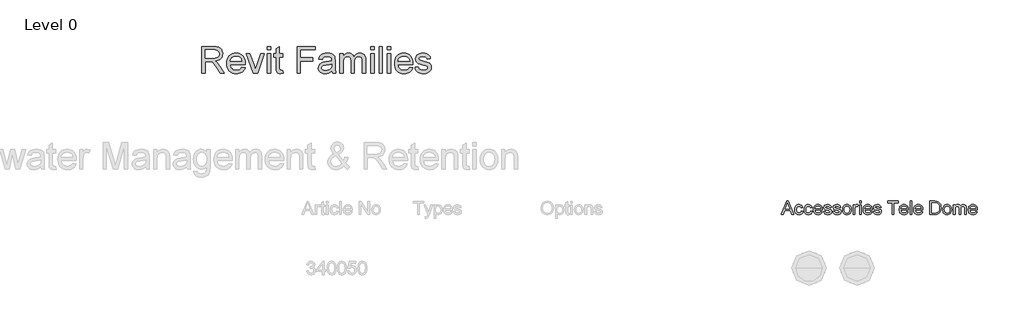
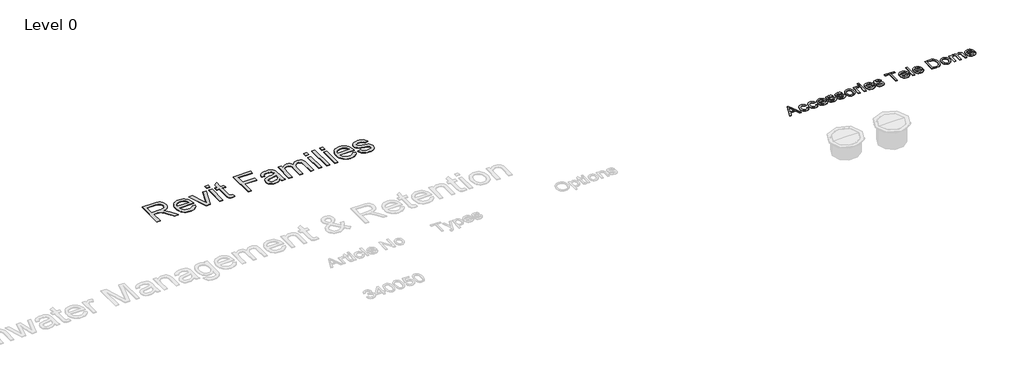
# One storey, part 10 of 10: 2 proxies.
"""IFC4 building model written with IfcOpenShell, lengths in millimetres."""

from ifc_helpers import new_model, si_unit, origin, origin_with_axes, place, context, project, spatial, polyline, outline, extrude, element, save

model = new_model("IFC4")

# Units and contexts
model_context = context("Model", 3, world=origin())
ifc_project = project(units=[si_unit("LENGTHUNIT", "METRE", prefix="MILLI")], contexts=[model_context])

# Site, building, storey
site = spatial("IfcSite", under=ifc_project)
building = spatial("IfcBuilding", under=site)
storey = spatial("IfcBuildingStorey", under=building, Name="Level 0", Elevation=0.0)

# Proxies
placement = place(None, origin())
element("IfcBuildingElementProxy", 1, Name="300mm Arial", ObjectType="300mm Arial", at=placement, inside=storey, context=model_context, shape_type="SweptSolid", body=[
    extrude(outline(polyline([(4427.6915108, 11631.8762937), (4547.9889232, 11933.2452242), (4580.0682332, 11933.2452242), (4700.3656456, 11631.8762937), (4660.5608138, 11631.8762937), (4626.0534826, 11726.0540845), (4501.9300975, 11726.0540845), (4467.4963427, 11631.8762937), (4427.6915108, 11631.8762937)]), holes=[polyline([(4515.7624605, 11763.7252008), (4612.294696, 11763.7252008), (4585.1450048, 11837.8166346), (4564.0285782, 11895.5741079), (4545.2665965, 11844.2913577), (4515.7624605, 11763.7252008)])]), origin_with_axes(), (0.0, 0.0, 1.0), 10.0),
    extrude(outline(polyline([(4877.1697325, 11711.9274159), (4914.8408488, 11707.2185263), (4904.3378179, 11673.7136736), (4884.6009488, 11648.3941953), (4857.4880458, 11632.474102), (4824.8569128, 11627.1674042), (4803.72899, 11629.0183105), (4784.7853665, 11634.5710293), (4768.0260424, 11643.8255608), (4753.4510176, 11656.7819048), (4741.6535018, 11673.1963396), (4733.2267049, 11692.8251433), (4728.1706267, 11715.6683159), (4726.4852673, 11741.7258575), (4729.3639439, 11775.2491043), (4737.9999738, 11804.3025848), (4752.5313126, 11827.7642591), (4773.0959161, 11844.5120869), (4797.6980245, 11854.5552654), (4824.341878, 11857.9029915), (4856.1728677, 11853.3044666), (4881.6211047, 11839.5088918), (4899.8772487, 11817.2520311), (4910.1319593, 11787.2696485), (4872.460843, 11782.5607589), (4865.6274349, 11798.9958871), (4854.9864482, 11810.777308), (4841.1264941, 11817.8682334), (4824.6361836, 11820.2318752), (4800.2915926, 11815.578168), (4780.9685908, 11801.6170463), (4768.3594354, 11777.594352), (4764.1563836, 11742.7559271), (4768.2674649, 11707.4484526), (4780.6007088, 11683.3429848), (4799.5742227, 11669.4646366), (4823.606114, 11664.8385205), (4843.1130568, 11667.7263941), (4859.1067266, 11676.3900151), (4870.7409947, 11691.0501126), (4877.1697325, 11711.9274159)])), origin_with_axes(), (0.0, 0.0, 1.0), 10.0),
    extrude(outline(polyline([(5089.0697618, 11711.9274159), (5126.7408781, 11707.2185263), (5116.2378471, 11673.7136736), (5096.5009781, 11648.3941953), (5069.388075, 11632.474102), (5036.756942, 11627.1674042), (5015.6290192, 11629.0183105), (4996.6853957, 11634.5710293), (4979.9260716, 11643.8255608), (4965.3510468, 11656.7819048), (4953.553531, 11673.1963396), (4945.1267341, 11692.8251433), (4940.0706559, 11715.6683159), (4938.3852965, 11741.7258575), (4941.2639731, 11775.2491043), (4949.900003, 11804.3025848), (4964.4313418, 11827.7642591), (4984.9959453, 11844.5120869), (5009.5980537, 11854.5552654), (5036.2419072, 11857.9029915), (5068.0728969, 11853.3044666), (5093.5211339, 11839.5088918), (5111.7772779, 11817.2520311), (5122.0319885, 11787.2696485), (5084.3608722, 11782.5607589), (5077.5274642, 11798.9958871), (5066.8864774, 11810.777308), (5053.0265233, 11817.8682334), (5036.5362128, 11820.2318752), (5012.1916218, 11815.578168), (4992.86862, 11801.6170463), (4980.2594646, 11777.594352), (4976.0564128, 11742.7559271), (4980.1674941, 11707.4484526), (4992.500738, 11683.3429848), (5011.4742519, 11669.4646366), (5035.5061433, 11664.8385205), (5055.0130861, 11667.7263941), (5071.0067558, 11676.3900151), (5082.6410239, 11691.0501126), (5089.0697618, 11711.9274159)])), origin_with_axes(), (0.0, 0.0, 1.0), 10.0),
    extrude(outline(polyline([(5314.6550012, 11697.8007472), (5351.5903535, 11693.0918577), (5338.2822223, 11665.2615848), (5317.0462342, 11644.4578579), (5288.3606356, 11631.4900176), (5252.7036732, 11627.1674042), (5229.3293709, 11629.032106), (5208.5026515, 11634.6262116), (5190.2235149, 11643.9497209), (5174.491961, 11657.002634), (5161.8414189, 11673.4216673), (5152.8053174, 11692.8435374), (5147.3836565, 11715.2682442), (5145.5764362, 11740.6957879), (5147.4020506, 11766.985555), (5152.8788938, 11790.1575221), (5162.0069658, 11810.2116894), (5174.7862666, 11827.1480568), (5190.4764337, 11840.6033407), (5208.3371046, 11850.2142578), (5228.3682792, 11855.9808081), (5250.5699576, 11857.9029915), (5272.0565654, 11855.9854066), (5291.4876325, 11850.2326519), (5308.863159, 11840.6447274), (5324.1831449, 11827.2216331), (5336.6888334, 11810.322054), (5345.6214681, 11790.3046749), (5350.981049, 11767.169496), (5352.7675759, 11740.9165171), (5352.5468467, 11730.762974), (5183.2475525, 11730.762974), (5189.7682609, 11702.5648191), (5204.915802, 11681.8346687), (5226.7771896, 11669.0875575), (5253.4394372, 11664.8385205), (5273.4890059, 11666.8066892), (5290.3747895, 11672.7111952), (5304.0967879, 11682.9199205), (5314.6550012, 11697.8007472)]), holes=[polyline([(5183.2475525, 11768.4340903), (5315.0964596, 11768.4340903), (5310.001294, 11788.3365063), (5300.0132978, 11802.5735395), (5278.0507427, 11815.8172913), (5250.4228048, 11820.2318752), (5225.0297501, 11816.7094051), (5204.0328852, 11806.1419948), (5189.4371671, 11789.6700785), (5183.2475525, 11768.4340903)])]), origin_with_axes(), (0.0, 0.0, 1.0), 10.0),
    extrude(outline(polyline([(5376.3120236, 11697.8007472), (5413.9831399, 11702.5096368), (5419.9244341, 11686.3964054), (5431.4207465, 11674.5506052), (5448.5456533, 11667.2665416), (5471.3727311, 11664.8385205), (5493.9238974, 11667.0642065), (5509.7796114, 11673.7412648), (5519.1606023, 11683.4165612), (5522.2875993, 11694.6369621), (5519.1422082, 11704.2386822), (5509.706035, 11711.5595339), (5470.9312727, 11722.3016881), (5414.2038691, 11740.7325761), (5399.8472742, 11749.9940053), (5389.4454108, 11762.2536728), (5383.1270375, 11776.7298293), (5381.0209131, 11792.6407256), (5382.7131703, 11807.2364438), (5387.7899418, 11820.7101218), (5395.7913752, 11832.5283309), (5406.257618, 11842.1576422), (5430.2067359, 11853.3044666), (5462.6171397, 11857.9029915), (5487.1364746, 11856.0543845), (5508.4552363, 11850.5085634), (5525.5985372, 11841.8081543), (5537.5914903, 11830.4957829), (5545.5377414, 11815.7345178), (5550.5409365, 11796.6874275), (5512.8698202, 11791.978538), (5508.1149454, 11803.8335353), (5498.7063634, 11812.7638707), (5484.5521036, 11818.3648741), (5465.5601956, 11820.2318752), (5443.9287343, 11818.4476476), (5429.5077601, 11813.0949645), (5421.3959621, 11805.3694426), (5418.6920294, 11796.4666984), (5423.1801898, 11785.5038149), (5437.233282, 11777.1896818), (5469.680474, 11769.1698543), (5524.9731378, 11751.4379421), (5539.578053, 11742.9582622), (5550.6513011, 11731.3515852), (5557.631862, 11716.5811231), (5559.9587156, 11698.6100876), (5557.2271918, 11680.0320469), (5549.0326203, 11662.5576521), (5535.6877009, 11647.5572638), (5517.5051333, 11636.4012423), (5495.5425782, 11629.4758637), (5470.8576963, 11627.1674042), (5432.8738803, 11631.6187763), (5405.153972, 11644.9728927), (5386.6495077, 11667.0826006), (5376.3120236, 11697.8007472)])), origin_with_axes(), (0.0, 0.0, 1.0), 10.0),
    extrude(outline(polyline([(5588.2120528, 11697.8007472), (5625.8831691, 11702.5096368), (5631.8244633, 11686.3964054), (5643.3207757, 11674.5506052), (5660.4456826, 11667.2665416), (5683.2727604, 11664.8385205), (5705.8239267, 11667.0642065), (5721.6796407, 11673.7412648), (5731.0606315, 11683.4165612), (5734.1876285, 11694.6369621), (5731.0422374, 11704.2386822), (5721.6060643, 11711.5595339), (5682.831302, 11722.3016881), (5626.1038983, 11740.7325761), (5611.7473035, 11749.9940053), (5601.34544, 11762.2536728), (5595.0270668, 11776.7298293), (5592.9209423, 11792.6407256), (5594.6131995, 11807.2364438), (5599.6899711, 11820.7101218), (5607.6914045, 11832.5283309), (5618.1576472, 11842.1576422), (5642.1067651, 11853.3044666), (5674.5171689, 11857.9029915), (5699.0365039, 11856.0543845), (5720.3552655, 11850.5085634), (5737.4985665, 11841.8081543), (5749.4915195, 11830.4957829), (5757.4377706, 11815.7345178), (5762.4409657, 11796.6874275), (5724.7698494, 11791.978538), (5720.0149746, 11803.8335353), (5710.6063926, 11812.7638707), (5696.4521328, 11818.3648741), (5677.4602248, 11820.2318752), (5655.8287635, 11818.4476476), (5641.4077893, 11813.0949645), (5633.2959913, 11805.3694426), (5630.5920587, 11796.4666984), (5635.080219, 11785.5038149), (5649.1333112, 11777.1896818), (5681.5805032, 11769.1698543), (5736.8731671, 11751.4379421), (5751.4780823, 11742.9582622), (5762.5513303, 11731.3515852), (5769.5318912, 11716.5811231), (5771.8587448, 11698.6100876), (5769.127221, 11680.0320469), (5760.9326495, 11662.5576521), (5747.5877302, 11647.5572638), (5729.4051626, 11636.4012423), (5707.4426074, 11629.4758637), (5682.7577256, 11627.1674042), (5644.7739096, 11631.6187763), (5617.0540012, 11644.9728927), (5598.5495369, 11667.0826006), (5588.2120528, 11697.8007472)])), origin_with_axes(), (0.0, 0.0, 1.0), 10.0),
    extrude(outline(polyline([(5804.8209716, 11742.5351979), (5806.8581181, 11771.1978038), (5812.9695578, 11795.8964813), (5823.1552905, 11816.6312302), (5837.4153163, 11833.4020507), (5851.7719112, 11844.1212123), (5867.6184281, 11851.7777563), (5884.9548672, 11856.3716827), (5903.7812283, 11857.9029915), (5924.5642617, 11856.0382897), (5943.3561339, 11850.4441841), (5960.1568448, 11841.1206748), (5974.9663943, 11828.0677617), (5987.0536171, 11811.7269034), (5995.6873477, 11792.5395581), (6000.8675861, 11770.5057258), (6002.5943322, 11745.6254066), (5999.5409116, 11707.5680142), (5990.3806499, 11678.5973071), (5975.3802616, 11656.9014664), (5954.806461, 11640.6686734), (5930.3698995, 11630.5427215), (5903.7812283, 11627.1674042), (5882.6946922, 11629.0252082), (5863.728076, 11634.5986205), (5846.8813799, 11643.8876409), (5832.1546038, 11656.8922694), (5820.1961397, 11673.3917769), (5811.6543796, 11693.1654341), (5806.5293236, 11716.2132411), (5804.8209716, 11742.5351979)]), holes=[polyline([(5842.4920879, 11742.6087743), (5846.8514895, 11708.5153104), (5859.9296944, 11684.2259016), (5879.6113812, 11669.6853658), (5903.7812283, 11664.8385205), (5927.8407108, 11669.7129569), (5947.4856093, 11684.3362662), (5960.5638142, 11708.9475717), (5964.9232159, 11743.7859966), (5960.5362231, 11776.8861792), (5947.3752447, 11800.8444941), (5927.702755, 11815.38503), (5903.7812283, 11820.2318752), (5879.6113812, 11815.4034241), (5859.9296944, 11800.9180705), (5846.8514895, 11776.6838441), (5842.4920879, 11742.6087743)])]), origin_with_axes(), (0.0, 0.0, 1.0), 10.0),
    extrude(outline(polyline([(6044.974338, 11631.8762937), (6044.974338, 11853.194102), (6077.9365648, 11853.194102), (6077.9365648, 11820.4526044), (6090.1134588, 11839.4353154), (6101.3338597, 11850.618928), (6112.5910487, 11856.0819757), (6124.8783074, 11857.9029915), (6143.6402891, 11854.9967238), (6162.6965765, 11846.2779205), (6150.1150122, 11812.5063533), (6136.8712604, 11818.3004948), (6123.6275086, 11820.2318752), (6112.3795166, 11818.3740712), (6102.3271411, 11812.8006589), (6094.206146, 11803.9347029), (6088.7522954, 11792.1992672), (6084.1721646, 11771.1564171), (6082.6454543, 11748.2005806), (6082.6454543, 11631.8762937), (6044.974338, 11631.8762937)])), origin_with_axes(), (0.0, 0.0, 1.0), 10.0),
    extrude(outline(polyline([(6186.2410242, 11895.5741079), (6186.2410242, 11933.2452242), (6223.9121405, 11933.2452242), (6223.9121405, 11895.5741079), (6186.2410242, 11895.5741079)])), origin_with_axes(), (0.0, 0.0, 1.0), 10.0),
    extrude(outline(polyline([(6186.2410242, 11631.8762937), (6186.2410242, 11853.194102), (6223.9121405, 11853.194102), (6223.9121405, 11631.8762937), (6186.2410242, 11631.8762937)])), origin_with_axes(), (0.0, 0.0, 1.0), 10.0),
    extrude(outline(polyline([(6435.3707113, 11697.8007472), (6472.3060636, 11693.0918577), (6458.9979324, 11665.2615848), (6437.7619443, 11644.4578579), (6409.0763457, 11631.4900176), (6373.4193833, 11627.1674042), (6350.045081, 11629.032106), (6329.2183616, 11634.6262116), (6310.939225, 11643.9497209), (6295.2076711, 11657.002634), (6282.557129, 11673.4216673), (6273.5210275, 11692.8435374), (6268.0993666, 11715.2682442), (6266.2921463, 11740.6957879), (6268.1177607, 11766.985555), (6273.5946039, 11790.1575221), (6282.7226759, 11810.2116894), (6295.5019767, 11827.1480568), (6311.1921438, 11840.6033407), (6329.0528147, 11850.2142578), (6349.0839893, 11855.9808081), (6371.2856677, 11857.9029915), (6392.7722755, 11855.9854066), (6412.2033427, 11850.2326519), (6429.5788691, 11840.6447274), (6444.898855, 11827.2216331), (6457.4045436, 11810.322054), (6466.3371782, 11790.3046749), (6471.6967591, 11767.169496), (6473.483286, 11740.9165171), (6473.2625568, 11730.762974), (6303.9632626, 11730.762974), (6310.483971, 11702.5648191), (6325.6315121, 11681.8346687), (6347.4928997, 11669.0875575), (6374.1551473, 11664.8385205), (6394.204716, 11666.8066892), (6411.0904996, 11672.7111952), (6424.812498, 11682.9199205), (6435.3707113, 11697.8007472)]), holes=[polyline([(6303.9632626, 11768.4340903), (6435.8121697, 11768.4340903), (6430.7170041, 11788.3365063), (6420.7290079, 11802.5735395), (6398.7664528, 11815.8172913), (6371.1385149, 11820.2318752), (6345.7454602, 11816.7094051), (6324.7485954, 11806.1419948), (6310.1528772, 11789.6700785), (6303.9632626, 11768.4340903)])]), origin_with_axes(), (0.0, 0.0, 1.0), 10.0),
    extrude(outline(polyline([(6497.0277337, 11697.8007472), (6534.69885, 11702.5096368), (6540.6401442, 11686.3964054), (6552.1364566, 11674.5506052), (6569.2613634, 11667.2665416), (6592.0884412, 11664.8385205), (6614.6396076, 11667.0642065), (6630.4953215, 11673.7412648), (6639.8763124, 11683.4165612), (6643.0033094, 11694.6369621), (6639.8579183, 11704.2386822), (6630.4217451, 11711.5595339), (6591.6469829, 11722.3016881), (6534.9195792, 11740.7325761), (6520.5629843, 11749.9940053), (6510.1611209, 11762.2536728), (6503.8427477, 11776.7298293), (6501.7366232, 11792.6407256), (6503.4288804, 11807.2364438), (6508.5056519, 11820.7101218), (6516.5070853, 11832.5283309), (6526.9733281, 11842.1576422), (6550.922446, 11853.3044666), (6583.3328498, 11857.9029915), (6607.8521847, 11856.0543845), (6629.1709464, 11850.5085634), (6646.3142473, 11841.8081543), (6658.3072004, 11830.4957829), (6666.2534515, 11815.7345178), (6671.2566466, 11796.6874275), (6633.5855303, 11791.978538), (6628.8306555, 11803.8335353), (6619.4220735, 11812.7638707), (6605.2678137, 11818.3648741), (6586.2759057, 11820.2318752), (6564.6444444, 11818.4476476), (6550.2234702, 11813.0949645), (6542.1116722, 11805.3694426), (6539.4077395, 11796.4666984), (6543.8958999, 11785.5038149), (6557.9489921, 11777.1896818), (6590.3961841, 11769.1698543), (6645.6888479, 11751.4379421), (6660.2937632, 11742.9582622), (6671.3670112, 11731.3515852), (6678.3475721, 11716.5811231), (6680.6744257, 11698.6100876), (6677.9429019, 11680.0320469), (6669.7483304, 11662.5576521), (6656.4034111, 11647.5572638), (6638.2208434, 11636.4012423), (6616.2582883, 11629.4758637), (6591.5734065, 11627.1674042), (6553.5895905, 11631.6187763), (6525.8696821, 11644.9728927), (6507.3652178, 11667.0826006), (6497.0277337, 11697.8007472)])), origin_with_axes(), (0.0, 0.0, 1.0), 10.0),
    extrude(outline(polyline([(6920.8277921, 11631.8762937), (6920.8277921, 11895.5741079), (6821.9411118, 11895.5741079), (6821.9411118, 11933.2452242), (7057.3855887, 11933.2452242), (7057.3855887, 11895.5741079), (6958.4989084, 11895.5741079), (6958.4989084, 11631.8762937), (6920.8277921, 11631.8762937)])), origin_with_axes(), (0.0, 0.0, 1.0), 10.0),
    extrude(outline(polyline([(7250.0086014, 11697.8007472), (7286.9439537, 11693.0918577), (7273.6358226, 11665.2615848), (7252.3998344, 11644.4578579), (7223.7142358, 11631.4900176), (7188.0572734, 11627.1674042), (7164.6829712, 11629.032106), (7143.8562517, 11634.6262116), (7125.5771151, 11643.9497209), (7109.8455613, 11657.002634), (7097.1950192, 11673.4216673), (7088.1589176, 11692.8435374), (7082.7372567, 11715.2682442), (7080.9300364, 11740.6957879), (7082.7556508, 11766.985555), (7088.232494, 11790.1575221), (7097.360566, 11810.2116894), (7110.1398669, 11827.1480568), (7125.830034, 11840.6033407), (7143.6907048, 11850.2142578), (7163.7218795, 11855.9808081), (7185.9235579, 11857.9029915), (7207.4101656, 11855.9854066), (7226.8412328, 11850.2326519), (7244.2167593, 11840.6447274), (7259.5367451, 11827.2216331), (7272.0424337, 11810.322054), (7280.9750684, 11790.3046749), (7286.3346492, 11767.169496), (7288.1211761, 11740.9165171), (7287.9004469, 11730.762974), (7118.6011527, 11730.762974), (7125.1218611, 11702.5648191), (7140.2694023, 11681.8346687), (7162.1307898, 11669.0875575), (7188.7930374, 11664.8385205), (7208.8426062, 11666.8066892), (7225.7283897, 11672.7111952), (7239.4503882, 11682.9199205), (7250.0086014, 11697.8007472)]), holes=[polyline([(7118.6011527, 11768.4340903), (7250.4500598, 11768.4340903), (7245.3548942, 11788.3365063), (7235.366898, 11802.5735395), (7213.4043429, 11815.8172913), (7185.7764051, 11820.2318752), (7160.3833503, 11816.7094051), (7139.3864855, 11806.1419948), (7124.7907673, 11789.6700785), (7118.6011527, 11768.4340903)])]), origin_with_axes(), (0.0, 0.0, 1.0), 10.0),
    extrude(outline(polyline([(7325.7922924, 11631.8762937), (7325.7922924, 11933.2452242), (7363.4634087, 11933.2452242), (7363.4634087, 11631.8762937), (7325.7922924, 11631.8762937)])), origin_with_axes(), (0.0, 0.0, 1.0), 10.0),
    extrude(outline(polyline([(7574.9219796, 11697.8007472), (7611.8573319, 11693.0918577), (7598.5492007, 11665.2615848), (7577.3132125, 11644.4578579), (7548.627614, 11631.4900176), (7512.9706516, 11627.1674042), (7489.5963493, 11629.032106), (7468.7696299, 11634.6262116), (7450.4904932, 11643.9497209), (7434.7589394, 11657.002634), (7422.1083973, 11673.4216673), (7413.0722958, 11692.8435374), (7407.6506349, 11715.2682442), (7405.8434146, 11740.6957879), (7407.669029, 11766.985555), (7413.1458722, 11790.1575221), (7422.2739442, 11810.2116894), (7435.053245, 11827.1480568), (7450.7434121, 11840.6033407), (7468.604083, 11850.2142578), (7488.6352576, 11855.9808081), (7510.836936, 11857.9029915), (7532.3235438, 11855.9854066), (7551.7546109, 11850.2326519), (7569.1301374, 11840.6447274), (7584.4501232, 11827.2216331), (7596.9558118, 11810.322054), (7605.8884465, 11790.3046749), (7611.2480273, 11767.169496), (7613.0345543, 11740.9165171), (7612.8138251, 11730.762974), (7443.5145309, 11730.762974), (7450.0352392, 11702.5648191), (7465.1827804, 11681.8346687), (7487.044168, 11669.0875575), (7513.7064156, 11664.8385205), (7533.7559843, 11666.8066892), (7550.6417679, 11672.7111952), (7564.3637663, 11682.9199205), (7574.9219796, 11697.8007472)]), holes=[polyline([(7443.5145309, 11768.4340903), (7575.363438, 11768.4340903), (7570.2682723, 11788.3365063), (7560.2802762, 11802.5735395), (7538.317721, 11815.8172913), (7510.6897832, 11820.2318752), (7485.2967285, 11816.7094051), (7464.2998636, 11806.1419948), (7449.7041455, 11789.6700785), (7443.5145309, 11768.4340903)])]), origin_with_axes(), (0.0, 0.0, 1.0), 10.0),
    extrude(outline(polyline([(7773.1367986, 11631.8762937), (7773.1367986, 11933.2452242), (7877.1002504, 11933.2452242), (7930.8845981, 11928.9042166), (7954.9072924, 11920.5349012), (7975.1775903, 11907.3463317), (7996.0181053, 11884.3904952), (8010.8621438, 11855.8428524), (8019.746494, 11822.2552262), (8022.7079441, 11784.1794397), (8020.7029872, 11751.8334153), (8014.6881166, 11723.3685459), (8005.5278549, 11699.1343195), (7994.0867249, 11679.4802239), (7980.9165494, 11663.9648007), (7966.5691516, 11652.1465916), (7950.0972353, 11643.3818031), (7930.5535043, 11637.0266416), (7882.1034455, 11631.8762937), (7773.1367986, 11631.8762937)]), holes=[polyline([(7810.8079149, 11669.54741), (7877.4681324, 11669.54741), (7905.0408879, 11670.9085734), (7925.9549794, 11674.9920635), (7941.737117, 11681.5587572), (7953.914011, 11690.3695309), (7967.001413, 11706.6759004), (7976.8330593, 11727.7831299), (7982.9858857, 11753.7831899), (7985.0368278, 11784.7680509), (7981.017717, 11825.8236816), (7968.9603846, 11856.137158), (7951.145699, 11876.9592789), (7929.8545285, 11889.5408431), (7908.186279, 11894.0657917), (7876.4380628, 11895.5741079), (7810.8079149, 11895.5741079), (7810.8079149, 11669.54741)])]), origin_with_axes(), (0.0, 0.0, 1.0), 10.0),
    extrude(outline(polyline([(8060.3790604, 11742.5351979), (8062.4162069, 11771.1978038), (8068.5276466, 11795.8964813), (8078.7133793, 11816.6312302), (8092.9734052, 11833.4020507), (8107.33, 11844.1212123), (8123.176517, 11851.7777563), (8140.512956, 11856.3716827), (8159.3393171, 11857.9029915), (8180.1223506, 11856.0382897), (8198.9142227, 11850.4441841), (8215.7149336, 11841.1206748), (8230.5244832, 11828.0677617), (8242.611706, 11811.7269034), (8251.2454365, 11792.5395581), (8256.4256749, 11770.5057258), (8258.152421, 11745.6254066), (8255.0990004, 11707.5680142), (8245.9387388, 11678.5973071), (8230.9383504, 11656.9014664), (8210.3645498, 11640.6686734), (8185.9279883, 11630.5427215), (8159.3393171, 11627.1674042), (8138.252781, 11629.0252082), (8119.2861649, 11634.5986205), (8102.4394688, 11643.8876409), (8087.7126926, 11656.8922694), (8075.7542285, 11673.3917769), (8067.2124685, 11693.1654341), (8062.0874124, 11716.2132411), (8060.3790604, 11742.5351979)]), holes=[polyline([(8098.0501767, 11742.6087743), (8102.4095783, 11708.5153104), (8115.4877833, 11684.2259016), (8135.16947, 11669.6853658), (8159.3393171, 11664.8385205), (8183.3987996, 11669.7129569), (8203.0436981, 11684.3362662), (8216.1219031, 11708.9475717), (8220.4813047, 11743.7859966), (8216.0943119, 11776.8861792), (8202.9333335, 11800.8444941), (8183.2608438, 11815.38503), (8159.3393171, 11820.2318752), (8135.16947, 11815.4034241), (8115.4877833, 11800.9180705), (8102.4095783, 11776.6838441), (8098.0501767, 11742.6087743)])]), origin_with_axes(), (0.0, 0.0, 1.0), 10.0),
    extrude(outline(polyline([(8300.5324268, 11631.8762937), (8300.5324268, 11853.194102), (8338.2035432, 11853.194102), (8338.2035432, 11816.7737845), (8349.5343086, 11833.5032182), (8364.1024356, 11846.6090143), (8381.4112835, 11855.0794972), (8400.9642115, 11857.9029915), (8421.9150912, 11855.0243149), (8438.7089042, 11846.3882851), (8451.2536803, 11832.5651191), (8459.4574488, 11814.1250341), (8473.1886442, 11833.2778905), (8488.8512202, 11846.9585022), (8506.4451766, 11855.1668692), (8525.9705135, 11857.9029915), (8554.2882301, 11853.3504519), (8575.2299126, 11839.6928328), (8588.1701618, 11816.5622523), (8592.4835782, 11783.5908285), (8592.4835782, 11631.8762937), (8554.8124619, 11631.8762937), (8554.8124619, 11767.4040207), (8551.317583, 11798.8579313), (8546.4063583, 11807.5307494), (8538.6624423, 11814.3457633), (8528.7020373, 11818.7603473), (8517.1413456, 11820.2318752), (8496.7330919, 11816.4610848), (8480.0956287, 11805.1487134), (8469.0315777, 11785.522209), (8465.3435607, 11756.8090193), (8465.3435607, 11631.8762937), (8427.6724444, 11631.8762937), (8427.6724444, 11771.5978755), (8425.4927436, 11792.898243), (8418.9536411, 11808.0917694), (8407.4481317, 11817.1968488), (8390.3692101, 11820.2318752), (8375.8562654, 11818.2085243), (8362.4837548, 11812.1384713), (8351.447295, 11802.1688693), (8343.9425023, 11788.4468709), (8339.6382829, 11769.4089776), (8338.2035432, 11743.491691), (8338.2035432, 11631.8762937), (8300.5324268, 11631.8762937)])), origin_with_axes(), (0.0, 0.0, 1.0), 10.0),
    extrude(outline(polyline([(8803.942149, 11697.8007472), (8840.8775014, 11693.0918577), (8827.5693702, 11665.2615848), (8806.333382, 11644.4578579), (8777.6477834, 11631.4900176), (8741.9908211, 11627.1674042), (8718.6165188, 11629.032106), (8697.7897993, 11634.6262116), (8679.5106627, 11643.9497209), (8663.7791089, 11657.002634), (8651.1285668, 11673.4216673), (8642.0924653, 11692.8435374), (8636.6708044, 11715.2682442), (8634.8635841, 11740.6957879), (8636.6891985, 11766.985555), (8642.1660417, 11790.1575221), (8651.2941137, 11810.2116894), (8664.0734145, 11827.1480568), (8679.7635816, 11840.6033407), (8697.6242524, 11850.2142578), (8717.6554271, 11855.9808081), (8739.8571055, 11857.9029915), (8761.3437133, 11855.9854066), (8780.7747804, 11850.2326519), (8798.1503069, 11840.6447274), (8813.4702927, 11827.2216331), (8825.9759813, 11810.322054), (8834.908616, 11790.3046749), (8840.2681968, 11767.169496), (8842.0547237, 11740.9165171), (8841.8339946, 11730.762974), (8672.5347004, 11730.762974), (8679.0554087, 11702.5648191), (8694.2029499, 11681.8346687), (8716.0643375, 11669.0875575), (8742.7265851, 11664.8385205), (8762.7761538, 11666.8066892), (8779.6619374, 11672.7111952), (8793.3839358, 11682.9199205), (8803.942149, 11697.8007472)]), holes=[polyline([(8672.5347004, 11768.4340903), (8804.3836074, 11768.4340903), (8799.2884418, 11788.3365063), (8789.3004456, 11802.5735395), (8767.3378905, 11815.8172913), (8739.7099527, 11820.2318752), (8714.316898, 11816.7094051), (8693.3200331, 11806.1419948), (8678.7243149, 11789.6700785), (8672.5347004, 11768.4340903)])]), origin_with_axes(), (0.0, 0.0, 1.0), 10.0),
])
element("IfcBuildingElementProxy", 2, Name="600mm Arial", ObjectType="600mm Arial", at=placement, inside=storey, context=model_context, shape_type="SweptSolid", body=[
    extrude(outline(polyline([(-8626.1144326, 14819.3449091), (-8626.1144326, 15422.08277), (-8366.389744, 15422.08277), (-8296.5841354, 15418.017674), (-8245.798026, 15405.8223859), (-8226.1991127, 15396.1286953), (-8208.6787327, 15383.3080077), (-8193.2368859, 15367.3603233), (-8179.8735725, 15348.2856418), (-8169.0900315, 15327.1094345), (-8161.3875022, 15304.8571723), (-8156.7659846, 15281.5288553), (-8155.2254788, 15257.1244834), (-8157.7776601, 15226.1672135), (-8165.4342042, 15197.7483294), (-8178.1951109, 15171.867831), (-8196.0603802, 15148.5257184), (-8219.2599386, 15128.4669526), (-8248.0237121, 15112.4364947), (-8282.3517007, 15100.4343446), (-8322.2439046, 15092.4605024), (-8297.4118699, 15076.2369064), (-8279.4224404, 15060.2340396), (-8248.557141, 15023.6297811), (-8218.3540292, 14982.684515), (-8117.8486681, 14819.3449091), (-8205.4045829, 14819.3449091), (-8283.8370243, 14944.2776347), (-8340.4908516, 15026.9775072), (-8361.5520958, 15051.092172), (-8380.2956834, 15066.0465751), (-8416.1273898, 15080.3939729), (-8459.8317708, 15083.0427233), (-8550.7722, 15083.0427233), (-8550.7722, 14819.3449091), (-8626.1144326, 14819.3449091)]), holes=[polyline([(-8550.7722, 15158.3849559), (-8382.1350934, 15158.3849559), (-8333.7034287, 15161.0521004), (-8296.1242829, 15169.0535338), (-8267.8341575, 15182.922685), (-8247.269554, 15203.1929829), (-8234.743172, 15227.7123179), (-8230.5677114, 15254.3285802), (-8232.5588727, 15273.5963997), (-8238.5323566, 15291.0799916), (-8248.4881631, 15306.7793557), (-8262.4262922, 15320.6944922), (-8280.6686406, 15332.089637), (-8303.5371051, 15340.2290261), (-8331.0316858, 15345.1126596), (-8363.1523825, 15346.7405374), (-8550.7722, 15346.7405374), (-8550.7722, 15158.3849559)])]), origin_with_axes(), (0.0, 0.0, 1.0), 10.0),
    extrude(outline(polyline([(-7722.8905581, 14951.1938162), (-7649.0198534, 14941.7760371), (-7660.3460203, 14912.1891277), (-7675.6361158, 14886.1154913), (-7694.8901397, 14863.5551279), (-7718.1080921, 14844.5080376), (-7745.0508497, 14829.3788906), (-7775.4792893, 14818.572357), (-7809.3934107, 14812.0884368), (-7846.793214, 14809.9271301), (-7893.5418186, 14813.6565338), (-7935.1952575, 14824.844745), (-7971.7535307, 14843.4917636), (-8003.2166384, 14869.5975897), (-8028.5177226, 14902.4356563), (-8046.5899256, 14941.2793964), (-8057.4332474, 14986.1288102), (-8061.047688, 15036.9838975), (-8057.3964592, 15089.5634316), (-8046.4427728, 15135.907366), (-8028.1866288, 15176.0157005), (-8002.6280272, 15209.8884352), (-7971.247693, 15236.7990032), (-7935.5263513, 15256.0208374), (-7895.464002, 15267.553938), (-7851.0606452, 15271.3983048), (-7808.0874296, 15267.563135), (-7769.2252953, 15256.0576256), (-7734.4742424, 15236.8817766), (-7703.8342707, 15210.035588), (-7678.8228936, 15176.2364297), (-7660.9576242, 15136.2016716), (-7650.2384625, 15089.9313136), (-7646.6654087, 15037.4253559), (-7647.106867, 15017.1182697), (-7985.7054554, 15017.1182697), (-7981.3414552, 14987.0531137), (-7972.6640387, 14960.7219599), (-7959.6732057, 14938.1248083), (-7942.3689564, 14919.261659), (-7921.7077838, 14904.3900294), (-7898.6461812, 14893.7674368), (-7873.1841487, 14887.3938812), (-7845.321686, 14885.2693627), (-7805.2225486, 14889.2057), (-7771.4509814, 14901.0147121), (-7744.0069846, 14921.4321628), (-7722.8905581, 14951.1938162)]), holes=[polyline([(-7985.7054554, 15092.4605024), (-7722.0076413, 15092.4605024), (-7732.1979725, 15132.2653342), (-7740.9627611, 15147.9187131), (-7752.1739649, 15160.7394007), (-7772.7201743, 15176.1904445), (-7796.0990751, 15187.2269043), (-7822.3106672, 15193.8487802), (-7851.3549508, 15196.0560722), (-7877.8470529, 15194.2948372), (-7902.1410602, 15189.011132), (-7924.2369725, 15180.2049567), (-7944.13479, 15167.8763114), (-7960.832034, 15152.595413), (-7973.3262263, 15134.9324787), (-7981.6173667, 15114.8875085), (-7985.7054554, 15092.4605024)])]), origin_with_axes(), (0.0, 0.0, 1.0), 10.0),
    extrude(outline(polyline([(-7462.7244111, 14819.3449091), (-7618.4120714, 15261.9805257), (-7538.6552549, 15261.9805257), (-7444.3303113, 14996.8111836), (-7415.9298213, 14907.636588), (-7388.1179424, 14991.8079885), (-7293.2043877, 15261.9805257), (-7213.4475711, 15261.9805257), (-7367.2222451, 14819.3449091), (-7462.7244111, 14819.3449091)])), origin_with_axes(), (0.0, 0.0, 1.0), 10.0),
    extrude(outline(polyline([(-7147.5231176, 15346.7405374), (-7147.5231176, 15422.08277), (-7072.180885, 15422.08277), (-7072.180885, 15346.7405374), (-7147.5231176, 15346.7405374)])), origin_with_axes(), (0.0, 0.0, 1.0), 10.0),
    extrude(outline(polyline([(-7147.5231176, 14819.3449091), (-7147.5231176, 15261.9805257), (-7072.180885, 15261.9805257), (-7072.180885, 14819.3449091), (-7147.5231176, 14819.3449091)])), origin_with_axes(), (0.0, 0.0, 1.0), 10.0),
    extrude(outline(polyline([(-6799.0652918, 14882.1791539), (-6789.6475127, 14817.1376172), (-6846.0070343, 14809.9271301), (-6882.1698345, 14813.054127), (-6909.1355847, 14822.4351179), (-6928.1918721, 14836.8928803), (-6940.6262835, 14855.2501919), (-6947.4688886, 14886.7776789), (-6949.749757, 14940.7459676), (-6949.749757, 15186.6382931), (-7006.2564314, 15186.6382931), (-7006.2564314, 15261.9805257), (-6949.749757, 15261.9805257), (-6949.749757, 15369.5492211), (-6874.4075244, 15413.8422133), (-6874.4075244, 15261.9805257), (-6799.0652918, 15261.9805257), (-6799.0652918, 15186.6382931), (-6874.4075244, 15186.6382931), (-6874.4075244, 14942.9532595), (-6870.4343988, 14904.1049208), (-6857.558529, 14890.3461342), (-6846.687616, 14886.5385556), (-6831.8803657, 14885.2693627), (-6799.0652918, 14882.1791539)])), origin_with_axes(), (0.0, 0.0, 1.0), 10.0),
    extrude(outline(polyline([(-6478.8608032, 14819.3449091), (-6478.8608032, 15422.08277), (-6073.8963029, 15422.08277), (-6073.8963029, 15346.7405374), (-6403.5185706, 15346.7405374), (-6403.5185706, 15167.802735), (-6120.9851983, 15167.802735), (-6120.9851983, 15092.4605024), (-6403.5185706, 15092.4605024), (-6403.5185706, 14819.3449091), (-6478.8608032, 14819.3449091)])), origin_with_axes(), (0.0, 0.0, 1.0), 10.0),
    extrude(outline(polyline([(-5697.1851398, 14875.8515836), (-5733.182393, 14844.9862842), (-5770.2465041, 14824.7895627), (-5809.2236014, 14813.6427382), (-5850.9598138, 14809.9271301), (-5884.5060532, 14812.1620132), (-5913.9228173, 14818.8666625), (-5939.2101059, 14830.0410782), (-5960.3679192, 14845.68526), (-5977.0743603, 14864.8059267), (-5989.0075325, 14886.4097969), (-5996.1674358, 14910.4968705), (-5998.5540703, 14937.0671476), (-5994.9488267, 14968.300329), (-5984.133096, 14996.6640308), (-5967.4496476, 15020.9442425), (-5946.2412505, 15039.9269535), (-5921.3172454, 15054.2743513), (-5893.4869724, 15064.6486235), (-5828.2982829, 15075.979389), (-5751.2637931, 15087.8987656), (-5697.6265982, 15101.8782814), (-5697.1851398, 15118.6537004), (-5702.3722759, 15152.2781148), (-5708.8561961, 15164.7309203), (-5717.9336843, 15174.2774581), (-5733.6238514, 15183.8056018), (-5752.7353211, 15190.6114187), (-5801.222168, 15196.0560722), (-5846.1037715, 15192.4324346), (-5877.4473174, 15181.5615216), (-5898.8212614, 15161.4567706), (-5913.7940586, 15130.1316187), (-5989.1362912, 15139.5493977), (-5976.0580863, 15180.7521812), (-5956.5419464, 15213.1257968), (-5928.7668558, 15237.8842551), (-5890.9117985, 15256.2415666), (-5844.6138494, 15267.6091203), (-5791.5100834, 15271.3983048), (-5740.5768211, 15268.0505787), (-5700.2017722, 15258.0074002), (-5669.7595371, 15242.9058443), (-5648.6247164, 15224.3829858), (-5634.6084124, 15201.4823316), (-5625.5217272, 15173.2473885), (-5621.8429072, 15107.322935), (-5621.8429072, 15013.5866026), (-5618.0169344, 14882.6941887), (-5612.3515517, 14850.3389672), (-5603.007349, 14819.3449091), (-5678.3495817, 14819.3449091), (-5690.4161111, 14845.5381072), (-5697.1851398, 14875.8515836)]), holes=[polyline([(-5697.1851398, 15026.5360488), (-5747.8057023, 15013.9912728), (-5818.733351, 15003.4330595), (-5883.5541586, 14991.2193773), (-5900.421548, 14982.868456), (-5912.9111418, 14971.3537495), (-5920.6366637, 14957.5581747), (-5923.2118376, 14942.3646483), (-5917.6016372, 14919.9606348), (-5900.7710359, 14901.6033233), (-5873.0879158, 14889.3528528), (-5834.9201588, 14885.2693627), (-5794.4531393, 14889.7759171), (-5758.6950094, 14903.2955804), (-5729.7059082, 14923.2163905), (-5709.5459748, 14946.9263851), (-5700.6064424, 14971.3537495), (-5697.6265982, 15005.1988931), (-5697.1851398, 15026.5360488)])]), origin_with_axes(), (0.0, 0.0, 1.0), 10.0),
    extrude(outline(polyline([(-5518.2473374, 14819.3449091), (-5518.2473374, 15261.9805257), (-5442.9051047, 15261.9805257), (-5442.9051047, 15189.1398907), (-5420.2435738, 15222.5987582), (-5391.1073198, 15248.8103503), (-5356.4896241, 15265.7513162), (-5317.383768, 15271.3983048), (-5275.4820087, 15265.6409516), (-5257.648929, 15258.4442601), (-5241.8943826, 15248.3688919), (-5216.8048305, 15220.72256), (-5200.3972935, 15183.84239), (-5172.9349026, 15222.1481027), (-5141.6097507, 15249.5093261), (-5106.4218379, 15265.9260601), (-5067.3711641, 15271.3983048), (-5037.209439, 15269.122035), (-5010.7357309, 15262.2932254), (-4987.9500398, 15250.9118762), (-4968.8523658, 15234.9779873), (-4953.7554084, 15214.3076177), (-4942.9718674, 15188.7168264), (-4936.5017428, 15158.2056134), (-4934.3450346, 15122.7739788), (-4934.3450346, 14819.3449091), (-5009.6872672, 14819.3449091), (-5009.6872672, 15090.4003632), (-5011.4347067, 15127.979509), (-5016.6770251, 15153.3081844), (-5026.4994744, 15170.6538204), (-5041.9873064, 15184.2838484), (-5061.9081164, 15193.1130162), (-5085.0294998, 15196.0560722), (-5106.3804511, 15194.170677), (-5125.8460072, 15188.5144913), (-5143.426168, 15179.0875152), (-5159.1209337, 15165.8897486), (-5172.0289932, 15148.5349155), (-5181.2490357, 15126.6367397), (-5186.7810612, 15100.1952213), (-5188.6250697, 15069.2103603), (-5188.6250697, 14819.3449091), (-5263.9673023, 14819.3449091), (-5263.9673023, 15098.7880727), (-5268.3267039, 15141.3888077), (-5273.775956, 15158.1090444), (-5281.4049089, 15171.7758605), (-5291.5170652, 15182.3984531), (-5304.4159277, 15189.9860193), (-5320.1014962, 15194.538559), (-5338.5737709, 15196.0560722), (-5367.5996603, 15192.0093703), (-5394.3446814, 15179.8692644), (-5416.4176011, 15159.9300603), (-5431.4271865, 15132.4860634), (-5440.0356252, 15094.4102769), (-5442.9051047, 15042.5757038), (-5442.9051047, 14819.3449091), (-5518.2473374, 14819.3449091)])), origin_with_axes(), (0.0, 0.0, 1.0), 10.0),
    extrude(outline(polyline([(-4821.3316857, 15346.7405374), (-4821.3316857, 15422.08277), (-4745.9894531, 15422.08277), (-4745.9894531, 15346.7405374), (-4821.3316857, 15346.7405374)])), origin_with_axes(), (0.0, 0.0, 1.0), 10.0),
    extrude(outline(polyline([(-4821.3316857, 14819.3449091), (-4821.3316857, 15261.9805257), (-4745.9894531, 15261.9805257), (-4745.9894531, 14819.3449091), (-4821.3316857, 14819.3449091)])), origin_with_axes(), (0.0, 0.0, 1.0), 10.0),
    extrude(outline(polyline([(-4632.9761042, 14819.3449091), (-4632.9761042, 15422.08277), (-4557.6338716, 15422.08277), (-4557.6338716, 14819.3449091), (-4632.9761042, 14819.3449091)])), origin_with_axes(), (0.0, 0.0, 1.0), 10.0),
    extrude(outline(polyline([(-4444.6205226, 15346.7405374), (-4444.6205226, 15422.08277), (-4369.27829, 15422.08277), (-4369.27829, 15346.7405374), (-4444.6205226, 15346.7405374)])), origin_with_axes(), (0.0, 0.0, 1.0), 10.0),
    extrude(outline(polyline([(-4444.6205226, 14819.3449091), (-4444.6205226, 15261.9805257), (-4369.27829, 15261.9805257), (-4369.27829, 14819.3449091), (-4444.6205226, 14819.3449091)])), origin_with_axes(), (0.0, 0.0, 1.0), 10.0),
    extrude(outline(polyline([(-3946.3611484, 14951.1938162), (-3872.4904437, 14941.7760371), (-3883.8166107, 14912.1891277), (-3899.1067061, 14886.1154913), (-3918.36073, 14863.5551279), (-3941.5786824, 14844.5080376), (-3968.5214401, 14829.3788906), (-3998.9498796, 14818.572357), (-4032.864001, 14812.0884368), (-4070.2638043, 14809.9271301), (-4117.0124089, 14813.6565338), (-4158.6658478, 14824.844745), (-4195.2241211, 14843.4917636), (-4226.6872287, 14869.5975897), (-4251.9883129, 14902.4356563), (-4270.0605159, 14941.2793964), (-4280.9038377, 14986.1288102), (-4284.5182783, 15036.9838975), (-4280.8670495, 15089.5634316), (-4269.9133631, 15135.907366), (-4251.6572191, 15176.0157005), (-4226.0986175, 15209.8884352), (-4194.7182833, 15236.7990032), (-4158.9969416, 15256.0208374), (-4118.9345923, 15267.553938), (-4074.5312355, 15271.3983048), (-4031.5580199, 15267.563135), (-3992.6958857, 15256.0576256), (-3957.9448327, 15236.8817766), (-3927.304861, 15210.035588), (-3902.2934839, 15176.2364297), (-3884.4282145, 15136.2016716), (-3873.7090528, 15089.9313136), (-3870.135999, 15037.4253559), (-3870.5774574, 15017.1182697), (-4209.1760457, 15017.1182697), (-4204.8120456, 14987.0531137), (-4196.134629, 14960.7219599), (-4183.143796, 14938.1248083), (-4165.8395467, 14919.261659), (-4145.1783741, 14904.3900294), (-4122.1167716, 14893.7674368), (-4096.654739, 14887.3938812), (-4068.7922764, 14885.2693627), (-4028.6931389, 14889.2057), (-3994.9215717, 14901.0147121), (-3967.4775749, 14921.4321628), (-3946.3611484, 14951.1938162)]), holes=[polyline([(-4209.1760457, 15092.4605024), (-3945.4782316, 15092.4605024), (-3955.6685628, 15132.2653342), (-3964.4333514, 15147.9187131), (-3975.6445552, 15160.7394007), (-3996.1907646, 15176.1904445), (-4019.5696654, 15187.2269043), (-4045.7812576, 15193.8487802), (-4074.8255411, 15196.0560722), (-4101.3176433, 15194.2948372), (-4125.6116505, 15189.011132), (-4147.7075629, 15180.2049567), (-4167.6053803, 15167.8763114), (-4184.3026243, 15152.595413), (-4196.7968166, 15134.9324787), (-4205.087957, 15114.8875085), (-4209.1760457, 15092.4605024)])]), origin_with_axes(), (0.0, 0.0, 1.0), 10.0),
    extrude(outline(polyline([(-3823.0471036, 14951.1938162), (-3747.704871, 14960.6115953), (-3743.1523313, 14943.4315061), (-3735.8222825, 14928.3851325), (-3725.7147247, 14915.4724745), (-3712.8296578, 14904.693532), (-3697.1302937, 14896.1954579), (-3678.5798441, 14890.125405), (-3632.9256885, 14885.2693627), (-3587.8233559, 14889.7207348), (-3570.2937788, 14895.28495), (-3556.1119279, 14903.0748512), (-3537.3499461, 14922.4254442), (-3532.6594507, 14933.2595689), (-3531.0959522, 14944.8662459), (-3532.6686477, 14955.0381831), (-3537.3867343, 14964.069686), (-3556.2590807, 14978.7113895), (-3584.4756297, 14988.2763213), (-3633.8086053, 15000.195698), (-3702.5657502, 15020.0797198), (-3747.2634126, 15037.0574739), (-3775.9766023, 15055.5803323), (-3796.7803291, 15080.0996673), (-3809.4170757, 15109.0519803), (-3813.6293245, 15140.8737729), (-3810.2448102, 15170.0652092), (-3800.0912671, 15197.0125654), (-3784.0884003, 15220.6489836), (-3763.1559148, 15239.907606), (-3742.3521879, 15252.0293178), (-3715.257679, 15262.2012549), (-3683.9325271, 15269.0990423), (-3650.4368714, 15271.3983048), (-3601.3982015, 15267.7010908), (-3558.7606782, 15256.6094486), (-3524.4740763, 15239.2086302), (-3500.4881702, 15216.5838875), (-3484.595668, 15187.0613574), (-3474.5892778, 15148.9671768), (-3549.9315104, 15139.5493977), (-3559.4412599, 15163.2593923), (-3578.258424, 15181.1200632), (-3606.5669435, 15192.32207), (-3644.5507595, 15196.0560722), (-3687.8136822, 15192.4876169), (-3716.6556306, 15181.7822508), (-3732.8792266, 15166.331207), (-3738.2870919, 15148.5257184), (-3736.0430117, 15136.9374356), (-3729.3107712, 15126.5999515), (-3717.7960648, 15117.3661134), (-3701.2045868, 15109.9716853), (-3636.3102028, 15093.9320303), (-3525.7248751, 15058.468206), (-3496.5150447, 15041.508846), (-3474.3685486, 15018.2954921), (-3460.4074268, 14988.7545679), (-3455.7537196, 14952.812497), (-3461.2167672, 14915.6564155), (-3477.6059101, 14880.7076259), (-3504.2957489, 14850.7068492), (-3540.6608841, 14828.3948062), (-3584.5859943, 14814.5440491), (-3633.9557581, 14809.9271301), (-3674.505551, 14812.1528161), (-3709.9233901, 14818.8298743), (-3740.2092753, 14829.9583047), (-3765.3632067, 14845.5381072), (-3785.9094162, 14865.4957054), (-3802.3721355, 14889.757523), (-3814.7513646, 14918.3235599), (-3823.0471036, 14951.1938162)])), origin_with_axes(), (0.0, 0.0, 1.0), 10.0),
])

save(model, "model.ifc")
